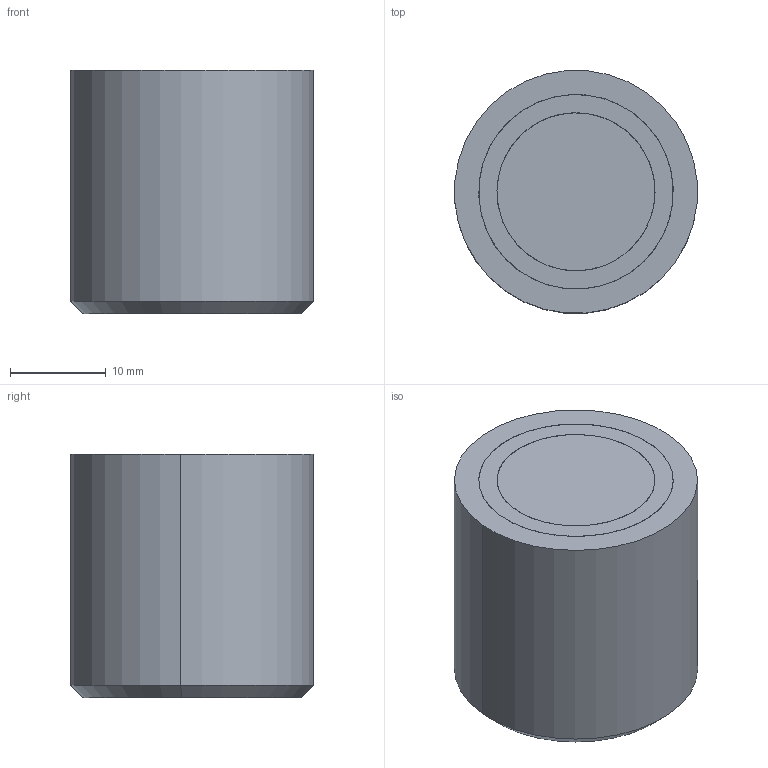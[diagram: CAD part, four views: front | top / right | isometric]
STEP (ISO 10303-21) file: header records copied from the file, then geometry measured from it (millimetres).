
FILE_DESCRIPTION (( 'STEP AP203' ), '1' );
FILE_NAME ('A1004.STEP', '2018-08-17T19:30:59', ( '' ), ( '' ), 'SwSTEP 2.0', 'SolidWorks 2015', '' );
FILE_SCHEMA (( 'CONFIG_CONTROL_DESIGN' ));
Length unit declared in the file: inch
Products named in the file (1): A1004
Bounding box: 25.32 x 25.32 x 25.4 mm (x, y, z)
Volume: 12651.5 mm3; surface area: 8994.4 mm2
Topology: 3 solids, 3 shells, 25 faces, 50 edges, 31 vertices
Faces by surface type: cylinder 14, plane 7, cone 4
Entity records: 731 total; most frequent: DIRECTION 130, CARTESIAN_POINT 105, ORIENTED_EDGE 96, AXIS2_PLACEMENT_3D 56, EDGE_CURVE 48, VERTEX_POINT 31, EDGE_LOOP 31, CIRCLE 30
